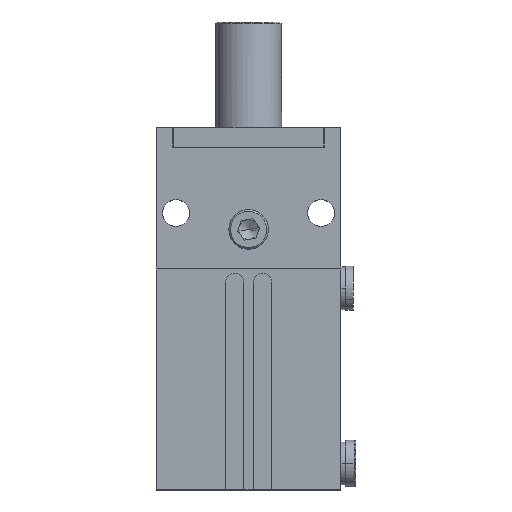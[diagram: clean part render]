
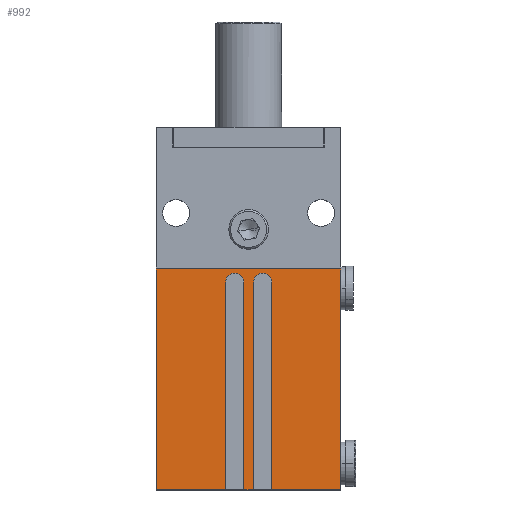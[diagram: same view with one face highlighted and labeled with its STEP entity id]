
A CAD part, top view. The second image highlights one B-rep face of the part: STEP entity #992.
In plain terms, the highlighted planar face has unit normal (0, 0, 1).
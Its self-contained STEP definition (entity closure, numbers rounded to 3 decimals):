
#23 = VERTEX_POINT ( 'NONE', #4178 ) ;
#290 = CARTESIAN_POINT ( 'NONE',  ( 35., 63., 45.5 ) ) ;
#328 = CARTESIAN_POINT ( 'NONE',  ( 26.5, 63., 45.5 ) ) ;
#354 = VECTOR ( 'NONE', #5895, 1000. ) ;
#473 = LINE ( 'NONE', #2596, #354 ) ;
#931 = CIRCLE ( 'NONE', #2071, 2.75 ) ;
#992 = ADVANCED_FACE ( 'NONE', ( #7187 ), #6436, .F. ) ;
#1006 = CARTESIAN_POINT ( 'NONE',  ( 0., 103.7, 45.5 ) ) ;
#1033 = VECTOR ( 'NONE', #6469, 1000. ) ;
#1037 = CARTESIAN_POINT ( 'NONE',  ( 56., 67., 45.5 ) ) ;
#1207 = DIRECTION ( 'NONE',  ( 0., 0., 1. ) ) ;
#1267 = EDGE_CURVE ( 'NONE', #7627, #7836, #2971, .T. ) ;
#1286 = CARTESIAN_POINT ( 'NONE',  ( 32.25, 63., 45.5 ) ) ;
#1347 = ORIENTED_EDGE ( 'NONE', *, *, #2780, .F. ) ;
#1581 = CARTESIAN_POINT ( 'NONE',  ( 21., 63., 45.5 ) ) ;
#1591 = VERTEX_POINT ( 'NONE', #4770 ) ;
#1597 = CARTESIAN_POINT ( 'NONE',  ( 0., 0., 45.5 ) ) ;
#1860 = LINE ( 'NONE', #4569, #8299 ) ;
#1953 = ORIENTED_EDGE ( 'NONE', *, *, #8567, .T. ) ;
#2071 = AXIS2_PLACEMENT_3D ( 'NONE', #4249, #6259, #3492 ) ;
#2213 = VERTEX_POINT ( 'NONE', #5614 ) ;
#2259 = VERTEX_POINT ( 'NONE', #1037 ) ;
#2487 = VERTEX_POINT ( 'NONE', #8582 ) ;
#2488 = LINE ( 'NONE', #3867, #5869 ) ;
#2596 = CARTESIAN_POINT ( 'NONE',  ( 0., 0., 45.5 ) ) ;
#2614 = VERTEX_POINT ( 'NONE', #5559 ) ;
#2780 = EDGE_CURVE ( 'NONE', #7627, #23, #6352, .T. ) ;
#2970 = CARTESIAN_POINT ( 'NONE',  ( 35., 0., 45.5 ) ) ;
#2971 = LINE ( 'NONE', #5689, #3381 ) ;
#3193 = DIRECTION ( 'NONE',  ( 1., 0., 0. ) ) ;
#3215 = DIRECTION ( 'NONE',  ( 0., 0., -1. ) ) ;
#3381 = VECTOR ( 'NONE', #8772, 1000. ) ;
#3481 = DIRECTION ( 'NONE',  ( 0., -1., 0. ) ) ;
#3492 = DIRECTION ( 'NONE',  ( 1., 0., 0. ) ) ;
#3640 = EDGE_CURVE ( 'NONE', #8476, #2213, #8477, .T. ) ;
#3748 = LINE ( 'NONE', #7266, #1033 ) ;
#3867 = CARTESIAN_POINT ( 'NONE',  ( 0., 0., 45.5 ) ) ;
#4080 = EDGE_CURVE ( 'NONE', #23, #1591, #7989, .T. ) ;
#4178 = CARTESIAN_POINT ( 'NONE',  ( 29.5, 63., 45.5 ) ) ;
#4249 = CARTESIAN_POINT ( 'NONE',  ( 23.75, 63., 45.5 ) ) ;
#4269 = VECTOR ( 'NONE', #5060, 1000. ) ;
#4521 = LINE ( 'NONE', #7830, #6165 ) ;
#4527 = DIRECTION ( 'NONE',  ( 0., -1., 0. ) ) ;
#4569 = CARTESIAN_POINT ( 'NONE',  ( 0., 0., 45.5 ) ) ;
#4582 = VERTEX_POINT ( 'NONE', #5334 ) ;
#4644 = ORIENTED_EDGE ( 'NONE', *, *, #8399, .T. ) ;
#4686 = ORIENTED_EDGE ( 'NONE', *, *, #4080, .F. ) ;
#4758 = VECTOR ( 'NONE', #7794, 1000. ) ;
#4770 = CARTESIAN_POINT ( 'NONE',  ( 29.5, 0., 45.5 ) ) ;
#4825 = ORIENTED_EDGE ( 'NONE', *, *, #4999, .F. ) ;
#4999 = EDGE_CURVE ( 'NONE', #2487, #2614, #5801, .T. ) ;
#5059 = ORIENTED_EDGE ( 'NONE', *, *, #8217, .F. ) ;
#5060 = DIRECTION ( 'NONE',  ( 0., -1., 0. ) ) ;
#5334 = CARTESIAN_POINT ( 'NONE',  ( 56., 0., 45.5 ) ) ;
#5423 = VERTEX_POINT ( 'NONE', #7170 ) ;
#5559 = CARTESIAN_POINT ( 'NONE',  ( 21., 0., 45.5 ) ) ;
#5614 = CARTESIAN_POINT ( 'NONE',  ( 26.5, 0., 45.5 ) ) ;
#5689 = CARTESIAN_POINT ( 'NONE',  ( 35., 63., 45.5 ) ) ;
#5736 = CARTESIAN_POINT ( 'NONE',  ( 29.5, 63., 45.5 ) ) ;
#5801 = LINE ( 'NONE', #1581, #4269 ) ;
#5869 = VECTOR ( 'NONE', #4527, 1000. ) ;
#5895 = DIRECTION ( 'NONE',  ( 1., 0., 0. ) ) ;
#5955 = VECTOR ( 'NONE', #8518, 1000. ) ;
#6165 = VECTOR ( 'NONE', #7237, 1000. ) ;
#6259 = DIRECTION ( 'NONE',  ( 0., 0., 1. ) ) ;
#6352 = CIRCLE ( 'NONE', #7648, 2.75 ) ;
#6436 = PLANE ( 'NONE',  #7216 ) ;
#6469 = DIRECTION ( 'NONE',  ( 0., 1., 0. ) ) ;
#6483 = EDGE_LOOP ( 'NONE', ( #8238, #6900, #4644, #4825, #5059, #8202, #8786, #4686, #1347, #8056, #7339, #1953 ) ) ;
#6530 = VECTOR ( 'NONE', #3481, 1000. ) ;
#6544 = EDGE_CURVE ( 'NONE', #5423, #8781, #2488, .T. ) ;
#6623 = CARTESIAN_POINT ( 'NONE',  ( 0., 0., 45.5 ) ) ;
#6900 = ORIENTED_EDGE ( 'NONE', *, *, #6544, .T. ) ;
#7077 = CARTESIAN_POINT ( 'NONE',  ( 26.5, 63., 45.5 ) ) ;
#7143 = EDGE_CURVE ( 'NONE', #5423, #2259, #4521, .T. ) ;
#7170 = CARTESIAN_POINT ( 'NONE',  ( 0., 67., 45.5 ) ) ;
#7187 = FACE_OUTER_BOUND ( 'NONE', #6483, .T. ) ;
#7216 = AXIS2_PLACEMENT_3D ( 'NONE', #1006, #3215, #7281 ) ;
#7237 = DIRECTION ( 'NONE',  ( 1., 0., 0. ) ) ;
#7266 = CARTESIAN_POINT ( 'NONE',  ( 56., 0., 45.5 ) ) ;
#7281 = DIRECTION ( 'NONE',  ( -1., 0., 0. ) ) ;
#7339 = ORIENTED_EDGE ( 'NONE', *, *, #7666, .T. ) ;
#7627 = VERTEX_POINT ( 'NONE', #290 ) ;
#7648 = AXIS2_PLACEMENT_3D ( 'NONE', #1286, #1207, #3193 ) ;
#7666 = EDGE_CURVE ( 'NONE', #7836, #4582, #473, .T. ) ;
#7708 = LINE ( 'NONE', #1597, #4758 ) ;
#7794 = DIRECTION ( 'NONE',  ( 1., 0., 0. ) ) ;
#7823 = EDGE_CURVE ( 'NONE', #2213, #1591, #7708, .T. ) ;
#7830 = CARTESIAN_POINT ( 'NONE',  ( 0., 67., 45.5 ) ) ;
#7836 = VERTEX_POINT ( 'NONE', #2970 ) ;
#7989 = LINE ( 'NONE', #5736, #5955 ) ;
#8056 = ORIENTED_EDGE ( 'NONE', *, *, #1267, .T. ) ;
#8100 = DIRECTION ( 'NONE',  ( 1., 0., 0. ) ) ;
#8202 = ORIENTED_EDGE ( 'NONE', *, *, #3640, .T. ) ;
#8217 = EDGE_CURVE ( 'NONE', #8476, #2487, #931, .T. ) ;
#8238 = ORIENTED_EDGE ( 'NONE', *, *, #7143, .F. ) ;
#8299 = VECTOR ( 'NONE', #8100, 1000. ) ;
#8399 = EDGE_CURVE ( 'NONE', #8781, #2614, #1860, .T. ) ;
#8476 = VERTEX_POINT ( 'NONE', #328 ) ;
#8477 = LINE ( 'NONE', #7077, #6530 ) ;
#8518 = DIRECTION ( 'NONE',  ( 0., -1., 0. ) ) ;
#8567 = EDGE_CURVE ( 'NONE', #4582, #2259, #3748, .T. ) ;
#8582 = CARTESIAN_POINT ( 'NONE',  ( 21., 63., 45.5 ) ) ;
#8772 = DIRECTION ( 'NONE',  ( 0., -1., 0. ) ) ;
#8781 = VERTEX_POINT ( 'NONE', #6623 ) ;
#8786 = ORIENTED_EDGE ( 'NONE', *, *, #7823, .T. ) ;
